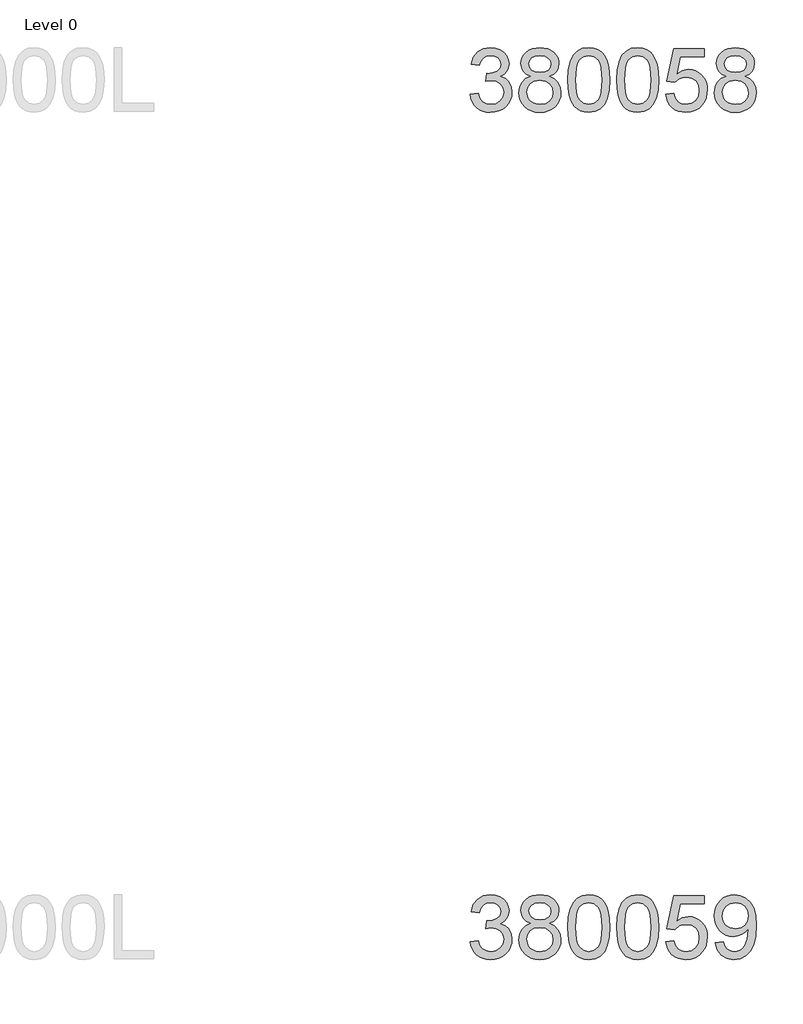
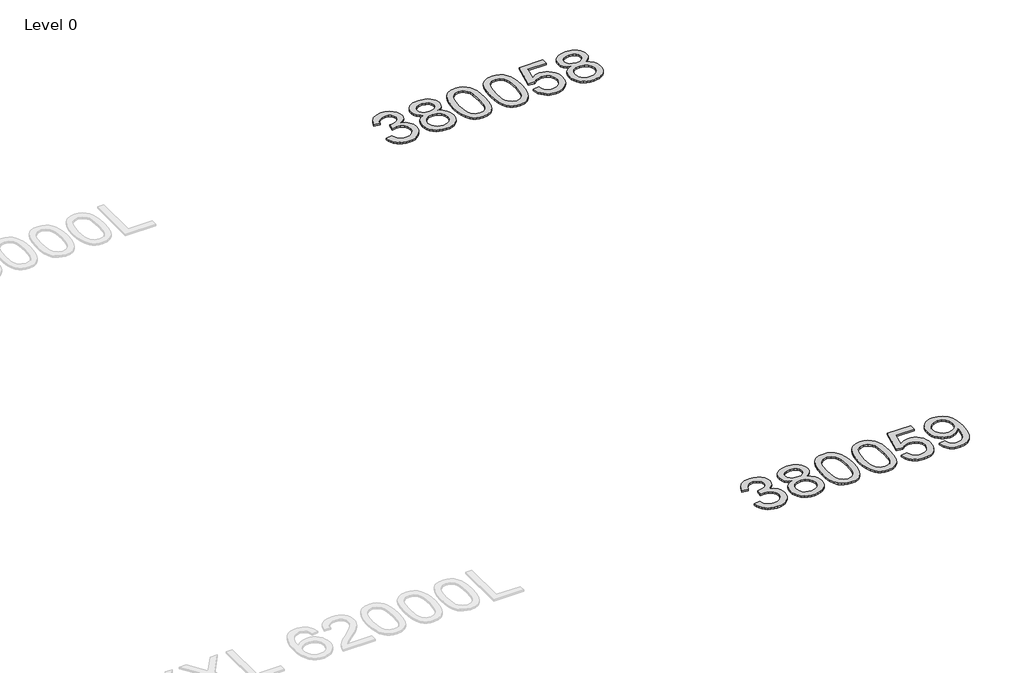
# One storey, part 5 of 37: 2 proxies.
"""IFC4 building model written with IfcOpenShell, lengths in millimetres."""

from ifc_helpers import new_model, si_unit, origin, origin_with_axes, place, context, project, spatial, polyline, outline, extrude, element, save

model = new_model("IFC4")

# Units and contexts
model_context = context("Model", 3, world=origin())
ifc_project = project(units=[si_unit("LENGTHUNIT", "METRE", prefix="MILLI")], contexts=[model_context])

# Site, building, storey
site = spatial("IfcSite", under=ifc_project)
building = spatial("IfcBuilding", under=site)
storey = spatial("IfcBuildingStorey", under=building, Name="Level 0", Elevation=0.0)

# Proxies
placement = place(None, origin())
element("IfcBuildingElementProxy", 1, Name="300mm Arial", ObjectType="300mm Arial", at=placement, inside=storey, context=model_context, shape_type="SweptSolid", body=[
    extrude(outline(polyline([(-6311.2846424, -33620.925676), (-6273.6135261, -33616.2167865), (-6265.1798313, -33639.8899929), (-6252.8281934, -33655.8744656), (-6235.9516068, -33664.979545), (-6213.9430665, -33668.0145714), (-6188.1177504, -33663.8391108), (-6168.1785463, -33651.3127288), (-6155.4314351, -33632.6243235), (-6151.1823981, -33609.9627926), (-6155.3946469, -33588.4508929), (-6168.0313935, -33571.0040893), (-6187.1612572, -33559.4433976), (-6210.8528577, -33555.5898337), (-6237.266785, -33559.710112), (-6233.0729302, -33522.0389957), (-6227.0396655, -33522.4804541), (-6204.4701051, -33519.7765215), (-6184.2917777, -33511.6647235), (-6170.0547444, -33497.942725), (-6165.3090667, -33478.4081911), (-6168.7487634, -33462.1386099), (-6179.0678533, -33448.9408433), (-6194.8132027, -33440.1944488), (-6214.5316777, -33437.278984), (-6234.2869408, -33440.22204), (-6250.4369604, -33449.0512079), (-6262.2275783, -33463.7664877), (-6268.9046365, -33484.3678794), (-6306.5757528, -33479.6589899), (-6295.4841107, -33445.8322404), (-6275.7472417, -33420.5771415), (-6248.7447032, -33404.8501862), (-6215.8560528, -33399.6078677), (-6192.1736494, -33402.1922387), (-6170.4226264, -33409.9453518), (-6152.083709, -33422.1774281), (-6138.637622, -33438.198689), (-6130.3878683, -33456.6571681), (-6127.6379504, -33476.2008991), (-6130.2499126, -33494.4110579), (-6138.0857991, -33510.9289595), (-6151.0352453, -33525.0004458), (-6168.9878867, -33535.8713587), (-6145.4066508, -33545.3995024), (-6127.932256, -33561.6230984), (-6117.1165253, -33583.6592299), (-6113.5112818, -33610.6249802), (-6115.3139036, -33629.7364498), (-6120.7217689, -33647.3396033), (-6129.7348778, -33663.4344406), (-6142.3532302, -33678.0209617), (-6157.7260991, -33690.1242793), (-6175.0027573, -33698.7695062), (-6194.1832048, -33703.9566423), (-6215.2674416, -33705.6856877), (-6234.323729, -33704.2095612), (-6251.6877592, -33699.7811817), (-6267.3595322, -33692.4005492), (-6281.339048, -33682.0676636), (-6293.0606881, -33669.3895304), (-6301.9588338, -33654.9731547), (-6308.0334853, -33638.8185366), (-6311.2846424, -33620.925676)])), origin_with_axes(), (0.0, 0.0, 1.0), 10.0),
    extrude(outline(polyline([(-6025.6610613, -33534.988442), (-6045.8301917, -33525.0556281), (-6059.9844515, -33511.5911471), (-6068.3445698, -33494.8709104), (-6071.1312759, -33475.1708295), (-6069.6137627, -33459.8071577), (-6065.061223, -33445.7218758), (-6057.4736569, -33432.9149839), (-6046.8510643, -33421.3864818), (-6033.7038815, -33411.8583382), (-6018.5425447, -33405.0525213), (-5982.1774095, -33399.6078677), (-5945.5915451, -33405.18128), (-5930.2646615, -33412.1480452), (-5916.9151436, -33421.9015166), (-5906.0994129, -33433.6553464), (-5898.373891, -33446.6231867), (-5893.7385779, -33460.8050376), (-5892.1934735, -33476.2008991), (-5894.9433914, -33495.2663835), (-5903.1931451, -33511.7015117), (-5917.0347052, -33525.0832192), (-5936.5600421, -33534.988442), (-5913.3742794, -33546.9354097), (-5896.4976928, -33564.5293662), (-5886.206194, -33586.9241826), (-5882.7756944, -33613.2737305), (-5884.4771486, -33632.0633034), (-5889.5815113, -33649.2893779), (-5898.0887825, -33664.9519538), (-5909.998962, -33679.0510313), (-5924.6866507, -33690.7036935), (-5941.526449, -33699.0270236), (-5960.518357, -33704.0210217), (-5981.6623747, -33705.6856877), (-6002.8063924, -33704.0141239), (-6021.7983004, -33698.9994325), (-6038.6380987, -33690.6416134), (-6053.3257874, -33678.9406667), (-6065.235967, -33664.7427209), (-6073.7432381, -33648.8939047), (-6078.8476008, -33631.3942181), (-6080.549055, -33612.2436609), (-6076.9805997, -33584.8732405), (-6066.2752336, -33562.3588624), (-6048.9847798, -33545.4730788), (-6025.6610613, -33534.988442)]), holes=[polyline([(-6033.4601596, -33476.2744755), (-6030.1216305, -33492.7188007), (-6020.1060432, -33505.8521879), (-6003.7077033, -33514.4606266), (-5981.2209163, -33517.3301062), (-5959.2583612, -33514.4790207), (-5943.1083416, -33505.9257643), (-5933.1755277, -33493.2338355), (-5929.8645898, -33477.9667327), (-5933.2858923, -33462.1202158), (-5943.5498, -33449.0144197), (-5959.9205488, -33440.2128429), (-5981.6623747, -33437.278984), (-6003.5421564, -33440.1484636), (-6019.885314, -33448.7569023), (-6030.0664482, -33461.3752547), (-6033.4601596, -33476.2744755)]), polyline([(-6042.8779387, -33610.9192858), (-6036.5871566, -33639.2829876), (-6027.8775504, -33651.4506846), (-6014.3302959, -33660.5097787), (-5998.1066999, -33666.1383732), (-5981.3680691, -33668.0145714), (-5955.726694, -33664.069037), (-5936.4864657, -33652.2324338), (-5924.4567245, -33634.3073836), (-5920.4468107, -33612.0965081), (-5924.5854832, -33589.5085536), (-5937.0015005, -33571.1880303), (-5956.6831872, -33559.0479244), (-5982.6188679, -33555.0012225), (-6007.901558, -33558.9927421), (-6026.9486483, -33570.9673011), (-6038.8956161, -33588.9383365), (-6042.8779387, -33610.9192858)])]), origin_with_axes(), (0.0, 0.0, 1.0), 10.0),
    extrude(outline(polyline([(-5849.8134676, -33552.7203541), (-5847.0451556, -33504.4818275), (-5838.7402196, -33466.0105679), (-5824.981433, -33436.717964), (-5805.8515692, -33416.0154047), (-5781.2126726, -33403.709752), (-5750.9267873, -33399.6078677), (-5727.7134334, -33402.0358889), (-5706.9281007, -33409.3199524), (-5689.5456764, -33421.1749497), (-5676.5410479, -33437.3157722), (-5666.7185986, -33457.6044643), (-5658.8827121, -33481.9030701), (-5653.7507583, -33512.7591724), (-5652.040107, -33552.7203541), (-5654.7808279, -33600.6829692), (-5663.0029905, -33639.0622584), (-5676.6790037, -33668.3824534), (-5695.7812763, -33689.1677861), (-5720.4753552, -33701.5562123), (-5750.9267873, -33705.6856877), (-5771.6753319, -33703.892263), (-5790.0694316, -33698.5119888), (-5806.1090866, -33689.5448652), (-5819.7942968, -33676.9908921), (-5832.9276841, -33654.2971715), (-5842.3086749, -33626.0208417), (-5847.9372695, -33592.1619025), (-5849.8134676, -33552.7203541)]), holes=[polyline([(-5812.1423513, -33552.6467777), (-5807.7277674, -33611.9033701), (-5802.2095375, -33632.1713688), (-5794.4840156, -33646.1991691), (-5774.7655406, -33662.5607208), (-5750.9267873, -33668.0145714), (-5727.088034, -33662.5423267), (-5707.3695591, -33646.1255927), (-5699.6440372, -33632.0747997), (-5694.1258073, -33611.8113996), (-5689.7112233, -33552.6467777), (-5693.9786545, -33494.7237576), (-5699.3129434, -33474.5224375), (-5706.7809479, -33460.1612441), (-5726.4626347, -33442.9995491), (-5751.3682457, -33437.278984), (-5774.9494816, -33442.3189674), (-5793.8954044, -33457.4389174), (-5801.8784437, -33473.0739022), (-5807.5806146, -33494.1535405), (-5812.1423513, -33552.6467777)])]), origin_with_axes(), (0.0, 0.0, 1.0), 10.0),
    extrude(outline(polyline([(-5619.0778803, -33552.7203541), (-5616.3095682, -33504.4818275), (-5608.0046322, -33466.0105679), (-5594.2458456, -33436.717964), (-5575.1159818, -33416.0154047), (-5550.4770852, -33403.709752), (-5520.1912, -33399.6078677), (-5496.9778461, -33402.0358889), (-5476.1925133, -33409.3199524), (-5458.8100891, -33421.1749497), (-5445.8054605, -33437.3157722), (-5435.9830113, -33457.6044643), (-5428.1471248, -33481.9030701), (-5423.0151709, -33512.7591724), (-5421.3045197, -33552.7203541), (-5424.0452405, -33600.6829692), (-5432.2674031, -33639.0622584), (-5445.9434163, -33668.3824534), (-5465.0456889, -33689.1677861), (-5489.7397678, -33701.5562123), (-5520.1912, -33705.6856877), (-5540.9397445, -33703.892263), (-5559.3338442, -33698.5119888), (-5575.3734992, -33689.5448652), (-5589.0587095, -33676.9908921), (-5602.1920967, -33654.2971715), (-5611.5730876, -33626.0208417), (-5617.2016821, -33592.1619025), (-5619.0778803, -33552.7203541)]), holes=[polyline([(-5581.406764, -33552.6467777), (-5576.99218, -33611.9033701), (-5571.4739501, -33632.1713688), (-5563.7484282, -33646.1991691), (-5544.0299532, -33662.5607208), (-5520.1912, -33668.0145714), (-5496.3524467, -33662.5423267), (-5476.6339717, -33646.1255927), (-5468.9084498, -33632.0747997), (-5463.3902199, -33611.8113996), (-5458.975636, -33552.6467777), (-5463.2430671, -33494.7237576), (-5468.577356, -33474.5224375), (-5476.0453605, -33460.1612441), (-5495.7270473, -33442.9995491), (-5520.6326584, -33437.278984), (-5544.2138942, -33442.3189674), (-5563.159817, -33457.4389174), (-5571.1428563, -33473.0739022), (-5576.8450272, -33494.1535405), (-5581.406764, -33552.6467777)])]), origin_with_axes(), (0.0, 0.0, 1.0), 10.0),
    extrude(outline(polyline([(-5388.3422929, -33620.925676), (-5350.6711766, -33616.2167865), (-5343.7549951, -33638.8323321), (-5331.6884656, -33655.028337), (-5314.5267706, -33664.7680128), (-5292.3250921, -33668.0145714), (-5265.3225537, -33663.4988199), (-5245.089044, -33649.9515654), (-5232.4522974, -33628.9363065), (-5228.2400486, -33602.0165415), (-5232.185583, -33576.669472), (-5244.0221862, -33557.2820909), (-5263.8418287, -33544.9764381), (-5291.736481, -33540.8745539), (-5310.0110191, -33542.5116288), (-5324.8090723, -33547.4228534), (-5345.962287, -33564.4190016), (-5383.6334033, -33559.710112), (-5350.6711766, -33404.3167573), (-5204.6956009, -33404.3167573), (-5204.6956009, -33441.9878736), (-5320.2105474, -33441.9878736), (-5336.3237788, -33524.9820517), (-5309.4132108, -33508.6480911), (-5281.2150559, -33503.2034376), (-5262.8692406, -33504.8910962), (-5246.017946, -33509.9540722), (-5230.661172, -33518.3923654), (-5216.7989185, -33530.205976), (-5205.3232995, -33544.6729355), (-5197.1264288, -33561.0712754), (-5192.2083064, -33579.4009958), (-5190.5689323, -33599.6620967), (-5196.4734383, -33637.333213), (-5203.8540708, -33654.1270261), (-5214.1869564, -33669.5596758), (-5229.8403353, -33685.364806), (-5248.1056763, -33696.6541847), (-5268.9829796, -33703.427812), (-5292.4722449, -33705.6856877), (-5329.4719766, -33699.8823492), (-5345.1506474, -33692.6281762), (-5358.9485215, -33682.4723338), (-5370.428739, -33669.92066), (-5379.1544401, -33655.4789924), (-5388.3422929, -33620.925676)])), origin_with_axes(), (0.0, 0.0, 1.0), 10.0),
    extrude(outline(polyline([(-5102.7187118, -33534.988442), (-5122.8878422, -33525.0556281), (-5137.042102, -33511.5911471), (-5145.4022203, -33494.8709104), (-5148.1889264, -33475.1708295), (-5146.6714132, -33459.8071577), (-5142.1188735, -33445.7218758), (-5134.5313074, -33432.9149839), (-5123.9087148, -33421.3864818), (-5110.761532, -33411.8583382), (-5095.6001952, -33405.0525213), (-5059.23506, -33399.6078677), (-5022.6491956, -33405.18128), (-5007.322312, -33412.1480452), (-4993.9727941, -33421.9015166), (-4983.1570634, -33433.6553464), (-4975.4315415, -33446.6231867), (-4970.7962284, -33460.8050376), (-4969.251124, -33476.2008991), (-4972.0010419, -33495.2663835), (-4980.2507956, -33511.7015117), (-4994.0923557, -33525.0832192), (-5013.6176926, -33534.988442), (-4990.4319299, -33546.9354097), (-4973.5553433, -33564.5293662), (-4963.2638445, -33586.9241826), (-4959.8333449, -33613.2737305), (-4961.5347991, -33632.0633034), (-4966.6391618, -33649.2893779), (-4975.146433, -33664.9519538), (-4987.0566125, -33679.0510313), (-5001.7443012, -33690.7036935), (-5018.5840995, -33699.0270236), (-5037.5760075, -33704.0210217), (-5058.7200252, -33705.6856877), (-5079.8640429, -33704.0141239), (-5098.8559509, -33698.9994325), (-5115.6957492, -33690.6416134), (-5130.3834379, -33678.9406667), (-5142.2936175, -33664.7427209), (-5150.8008886, -33648.8939047), (-5155.9052513, -33631.3942181), (-5157.6067055, -33612.2436609), (-5154.0382502, -33584.8732405), (-5143.3328841, -33562.3588624), (-5126.0424303, -33545.4730788), (-5102.7187118, -33534.988442)]), holes=[polyline([(-5119.9355892, -33610.9192858), (-5113.6448071, -33639.2829876), (-5104.9352009, -33651.4506846), (-5091.3879464, -33660.5097787), (-5075.1643504, -33666.1383732), (-5058.4257196, -33668.0145714), (-5032.7843445, -33664.069037), (-5013.5441162, -33652.2324338), (-5001.514375, -33634.3073836), (-4997.5044612, -33612.0965081), (-5001.6431337, -33589.5085536), (-5014.059151, -33571.1880303), (-5033.7408377, -33559.0479244), (-5059.6765184, -33555.0012225), (-5084.9592085, -33558.9927421), (-5104.0062988, -33570.9673011), (-5115.9532666, -33588.9383365), (-5119.9355892, -33610.9192858)]), polyline([(-5110.5178101, -33476.2744755), (-5107.179281, -33492.7188007), (-5097.1636937, -33505.8521879), (-5080.7653538, -33514.4606266), (-5058.2785668, -33517.3301062), (-5036.3160117, -33514.4790207), (-5020.1659921, -33505.9257643), (-5010.2331782, -33493.2338355), (-5006.9222403, -33477.9667327), (-5010.3435428, -33462.1202158), (-5020.6074505, -33449.0144197), (-5036.9781993, -33440.2128429), (-5058.7200252, -33437.278984), (-5080.5998069, -33440.1484636), (-5096.9429645, -33448.7569023), (-5107.1240987, -33461.3752547), (-5110.5178101, -33476.2744755)])]), origin_with_axes(), (0.0, 0.0, 1.0), 10.0),
])
element("IfcBuildingElementProxy", 2, Name="300mm Arial", ObjectType="300mm Arial", at=placement, inside=storey, context=model_context, shape_type="SweptSolid", body=[
    extrude(outline(polyline([(-6311.2846424, -37620.925676), (-6273.6135261, -37616.2167865), (-6265.1798313, -37639.8899929), (-6252.8281934, -37655.8744656), (-6235.9516068, -37664.979545), (-6213.9430665, -37668.0145714), (-6188.1177504, -37663.8391108), (-6168.1785463, -37651.3127288), (-6155.4314351, -37632.6243235), (-6151.1823981, -37609.9627926), (-6155.3946469, -37588.4508929), (-6168.0313935, -37571.0040893), (-6187.1612572, -37559.4433976), (-6210.8528577, -37555.5898337), (-6237.266785, -37559.710112), (-6233.0729302, -37522.0389957), (-6227.0396655, -37522.4804541), (-6204.4701051, -37519.7765215), (-6184.2917777, -37511.6647235), (-6170.0547444, -37497.942725), (-6165.3090667, -37478.4081911), (-6168.7487634, -37462.1386099), (-6179.0678533, -37448.9408433), (-6194.8132027, -37440.1944488), (-6214.5316777, -37437.278984), (-6234.2869408, -37440.22204), (-6250.4369604, -37449.0512079), (-6262.2275783, -37463.7664877), (-6268.9046365, -37484.3678794), (-6306.5757528, -37479.6589899), (-6295.4841107, -37445.8322404), (-6275.7472417, -37420.5771415), (-6248.7447032, -37404.8501862), (-6215.8560528, -37399.6078677), (-6192.1736494, -37402.1922387), (-6170.4226264, -37409.9453518), (-6152.083709, -37422.1774281), (-6138.637622, -37438.198689), (-6130.3878683, -37456.6571681), (-6127.6379504, -37476.2008991), (-6130.2499126, -37494.4110579), (-6138.0857991, -37510.9289595), (-6151.0352453, -37525.0004458), (-6168.9878867, -37535.8713587), (-6145.4066508, -37545.3995024), (-6127.932256, -37561.6230984), (-6117.1165253, -37583.6592299), (-6113.5112818, -37610.6249802), (-6115.3139036, -37629.7364498), (-6120.7217689, -37647.3396033), (-6129.7348778, -37663.4344406), (-6142.3532302, -37678.0209617), (-6157.7260991, -37690.1242793), (-6175.0027573, -37698.7695062), (-6194.1832048, -37703.9566423), (-6215.2674416, -37705.6856877), (-6234.323729, -37704.2095612), (-6251.6877592, -37699.7811817), (-6267.3595322, -37692.4005492), (-6281.339048, -37682.0676636), (-6293.0606881, -37669.3895304), (-6301.9588338, -37654.9731547), (-6308.0334853, -37638.8185366), (-6311.2846424, -37620.925676)])), origin_with_axes(), (0.0, 0.0, 1.0), 10.0),
    extrude(outline(polyline([(-6025.6610613, -37534.988442), (-6045.8301917, -37525.0556281), (-6059.9844515, -37511.5911471), (-6068.3445698, -37494.8709104), (-6071.1312759, -37475.1708295), (-6069.6137627, -37459.8071577), (-6065.061223, -37445.7218758), (-6057.4736569, -37432.9149839), (-6046.8510643, -37421.3864818), (-6033.7038815, -37411.8583382), (-6018.5425447, -37405.0525213), (-5982.1774095, -37399.6078677), (-5945.5915451, -37405.18128), (-5930.2646615, -37412.1480452), (-5916.9151436, -37421.9015166), (-5906.0994129, -37433.6553464), (-5898.373891, -37446.6231867), (-5893.7385779, -37460.8050376), (-5892.1934735, -37476.2008991), (-5894.9433914, -37495.2663835), (-5903.1931451, -37511.7015117), (-5917.0347052, -37525.0832192), (-5936.5600421, -37534.988442), (-5913.3742794, -37546.9354097), (-5896.4976928, -37564.5293662), (-5886.206194, -37586.9241826), (-5882.7756944, -37613.2737305), (-5884.4771486, -37632.0633034), (-5889.5815113, -37649.2893779), (-5898.0887825, -37664.9519538), (-5909.998962, -37679.0510313), (-5924.6866507, -37690.7036935), (-5941.526449, -37699.0270236), (-5960.518357, -37704.0210217), (-5981.6623747, -37705.6856877), (-6002.8063924, -37704.0141239), (-6021.7983004, -37698.9994325), (-6038.6380987, -37690.6416134), (-6053.3257874, -37678.9406667), (-6065.235967, -37664.7427209), (-6073.7432381, -37648.8939047), (-6078.8476008, -37631.3942181), (-6080.549055, -37612.2436609), (-6076.9805997, -37584.8732405), (-6066.2752336, -37562.3588624), (-6048.9847798, -37545.4730788), (-6025.6610613, -37534.988442)]), holes=[polyline([(-6033.4601596, -37476.2744755), (-6030.1216305, -37492.7188007), (-6020.1060432, -37505.8521879), (-6003.7077033, -37514.4606266), (-5981.2209163, -37517.3301062), (-5959.2583612, -37514.4790207), (-5943.1083416, -37505.9257643), (-5933.1755277, -37493.2338355), (-5929.8645898, -37477.9667327), (-5933.2858923, -37462.1202158), (-5943.5498, -37449.0144197), (-5959.9205488, -37440.2128429), (-5981.6623747, -37437.278984), (-6003.5421564, -37440.1484636), (-6019.885314, -37448.7569023), (-6030.0664482, -37461.3752547), (-6033.4601596, -37476.2744755)]), polyline([(-6042.8779387, -37610.9192858), (-6036.5871566, -37639.2829876), (-6027.8775504, -37651.4506846), (-6014.3302959, -37660.5097787), (-5998.1066999, -37666.1383732), (-5981.3680691, -37668.0145714), (-5955.726694, -37664.069037), (-5936.4864657, -37652.2324338), (-5924.4567245, -37634.3073836), (-5920.4468107, -37612.0965081), (-5924.5854832, -37589.5085536), (-5937.0015005, -37571.1880303), (-5956.6831872, -37559.0479244), (-5982.6188679, -37555.0012225), (-6007.901558, -37558.9927421), (-6026.9486483, -37570.9673011), (-6038.8956161, -37588.9383365), (-6042.8779387, -37610.9192858)])]), origin_with_axes(), (0.0, 0.0, 1.0), 10.0),
    extrude(outline(polyline([(-5849.8134676, -37552.7203541), (-5847.0451556, -37504.4818275), (-5838.7402196, -37466.0105679), (-5824.981433, -37436.717964), (-5805.8515692, -37416.0154047), (-5781.2126726, -37403.709752), (-5750.9267873, -37399.6078677), (-5727.7134334, -37402.0358889), (-5706.9281007, -37409.3199524), (-5689.5456764, -37421.1749497), (-5676.5410479, -37437.3157722), (-5666.7185986, -37457.6044643), (-5658.8827121, -37481.9030701), (-5653.7507583, -37512.7591724), (-5652.040107, -37552.7203541), (-5654.7808279, -37600.6829692), (-5663.0029905, -37639.0622584), (-5676.6790037, -37668.3824534), (-5695.7812763, -37689.1677861), (-5720.4753552, -37701.5562123), (-5750.9267873, -37705.6856877), (-5771.6753319, -37703.892263), (-5790.0694316, -37698.5119888), (-5806.1090866, -37689.5448652), (-5819.7942968, -37676.9908921), (-5832.9276841, -37654.2971715), (-5842.3086749, -37626.0208417), (-5847.9372695, -37592.1619025), (-5849.8134676, -37552.7203541)]), holes=[polyline([(-5812.1423513, -37552.6467777), (-5807.7277674, -37611.9033701), (-5802.2095375, -37632.1713688), (-5794.4840156, -37646.1991691), (-5774.7655406, -37662.5607208), (-5750.9267873, -37668.0145714), (-5727.088034, -37662.5423267), (-5707.3695591, -37646.1255927), (-5699.6440372, -37632.0747997), (-5694.1258073, -37611.8113996), (-5689.7112233, -37552.6467777), (-5693.9786545, -37494.7237576), (-5699.3129434, -37474.5224375), (-5706.7809479, -37460.1612441), (-5726.4626347, -37442.9995491), (-5751.3682457, -37437.278984), (-5774.9494816, -37442.3189674), (-5793.8954044, -37457.4389174), (-5801.8784437, -37473.0739022), (-5807.5806146, -37494.1535405), (-5812.1423513, -37552.6467777)])]), origin_with_axes(), (0.0, 0.0, 1.0), 10.0),
    extrude(outline(polyline([(-5619.0778803, -37552.7203541), (-5616.3095682, -37504.4818275), (-5608.0046322, -37466.0105679), (-5594.2458456, -37436.717964), (-5575.1159818, -37416.0154047), (-5550.4770852, -37403.709752), (-5520.1912, -37399.6078677), (-5496.9778461, -37402.0358889), (-5476.1925133, -37409.3199524), (-5458.8100891, -37421.1749497), (-5445.8054605, -37437.3157722), (-5435.9830113, -37457.6044643), (-5428.1471248, -37481.9030701), (-5423.0151709, -37512.7591724), (-5421.3045197, -37552.7203541), (-5424.0452405, -37600.6829692), (-5432.2674031, -37639.0622584), (-5445.9434163, -37668.3824534), (-5465.0456889, -37689.1677861), (-5489.7397678, -37701.5562123), (-5520.1912, -37705.6856877), (-5540.9397445, -37703.892263), (-5559.3338442, -37698.5119888), (-5575.3734992, -37689.5448652), (-5589.0587095, -37676.9908921), (-5602.1920967, -37654.2971715), (-5611.5730876, -37626.0208417), (-5617.2016821, -37592.1619025), (-5619.0778803, -37552.7203541)]), holes=[polyline([(-5581.406764, -37552.6467777), (-5576.99218, -37611.9033701), (-5571.4739501, -37632.1713688), (-5563.7484282, -37646.1991691), (-5544.0299532, -37662.5607208), (-5520.1912, -37668.0145714), (-5496.3524467, -37662.5423267), (-5476.6339717, -37646.1255927), (-5468.9084498, -37632.0747997), (-5463.3902199, -37611.8113996), (-5458.975636, -37552.6467777), (-5463.2430671, -37494.7237576), (-5468.577356, -37474.5224375), (-5476.0453605, -37460.1612441), (-5495.7270473, -37442.9995491), (-5520.6326584, -37437.278984), (-5544.2138942, -37442.3189674), (-5563.159817, -37457.4389174), (-5571.1428563, -37473.0739022), (-5576.8450272, -37494.1535405), (-5581.406764, -37552.6467777)])]), origin_with_axes(), (0.0, 0.0, 1.0), 10.0),
    extrude(outline(polyline([(-5388.3422929, -37620.925676), (-5350.6711766, -37616.2167865), (-5343.7549951, -37638.8323321), (-5331.6884656, -37655.028337), (-5314.5267706, -37664.7680128), (-5292.3250921, -37668.0145714), (-5265.3225537, -37663.4988199), (-5245.089044, -37649.9515654), (-5232.4522974, -37628.9363065), (-5228.2400486, -37602.0165415), (-5232.185583, -37576.669472), (-5244.0221862, -37557.2820909), (-5263.8418287, -37544.9764381), (-5291.736481, -37540.8745539), (-5310.0110191, -37542.5116288), (-5324.8090723, -37547.4228534), (-5345.962287, -37564.4190016), (-5383.6334033, -37559.710112), (-5350.6711766, -37404.3167573), (-5204.6956009, -37404.3167573), (-5204.6956009, -37441.9878736), (-5320.2105474, -37441.9878736), (-5336.3237788, -37524.9820517), (-5309.4132108, -37508.6480911), (-5281.2150559, -37503.2034376), (-5262.8692406, -37504.8910962), (-5246.017946, -37509.9540722), (-5230.661172, -37518.3923654), (-5216.7989185, -37530.205976), (-5205.3232995, -37544.6729355), (-5197.1264288, -37561.0712754), (-5192.2083064, -37579.4009958), (-5190.5689323, -37599.6620967), (-5196.4734383, -37637.333213), (-5203.8540708, -37654.1270261), (-5214.1869564, -37669.5596758), (-5229.8403353, -37685.364806), (-5248.1056763, -37696.6541847), (-5268.9829796, -37703.427812), (-5292.4722449, -37705.6856877), (-5329.4719766, -37699.8823492), (-5345.1506474, -37692.6281762), (-5358.9485215, -37682.4723338), (-5370.428739, -37669.92066), (-5379.1544401, -37655.4789924), (-5388.3422929, -37620.925676)])), origin_with_axes(), (0.0, 0.0, 1.0), 10.0),
    extrude(outline(polyline([(-5152.897816, -37625.6345656), (-5115.2266997, -37620.925676), (-5108.7887648, -37642.308817), (-5098.3041279, -37656.867747), (-5084.0303065, -37665.2278653), (-5066.2248179, -37668.0145714), (-5050.2495423, -37666.2211467), (-5035.7274005, -37660.8408725), (-5023.6608711, -37652.4623601), (-5015.0524324, -37641.6742206), (-5002.7283855, -37608.932723), (-4997.283732, -37565.228342), (-4997.5044612, -37557.8707021), (-5010.555075, -37573.7999924), (-5027.6339966, -37586.4183449), (-5047.5088214, -37594.6405075), (-5068.9471447, -37597.3812283), (-5086.8423045, -37595.7073653), (-5103.298126, -37590.685776), (-5118.3146092, -37582.3164606), (-5131.891754, -37570.5994191), (-5143.1420453, -37556.1462552), (-5151.1779676, -37539.5685728), (-5155.999521, -37520.8663719), (-5157.6067055, -37500.0396524), (-5155.9213461, -37478.5185557), (-5150.865268, -37459.2047509), (-5142.438471, -37442.0982382), (-5130.6409553, -37427.1990174), (-5116.3050538, -37415.1278894), (-5100.2630995, -37406.5056551), (-5082.5150925, -37401.3323146), (-5063.0610328, -37399.6078677), (-5034.9640454, -37403.5442051), (-5009.3870497, -37415.3532171), (-4987.9947116, -37434.4462927), (-4972.4516973, -37460.2348205), (-4962.987933, -37495.8825859), (-4959.8333449, -37544.5533738), (-4962.978736, -37596.1580207), (-4972.4149091, -37636.045626), (-4988.059091, -37666.0188116), (-5009.828508, -37687.8801991), (-5036.7850612, -37701.2343156), (-5067.9906515, -37705.6856877), (-5100.1987202, -37700.4341722), (-5125.8952775, -37684.6796258), (-5143.866313, -37659.4153298), (-5152.897816, -37625.6345656)]), holes=[polyline([(-4997.5044612, -37499.1567356), (-5001.5695573, -37473.6257252), (-5013.7648454, -37453.9808266), (-5032.692374, -37441.4544447), (-5056.9541916, -37437.278984), (-5082.1173201, -37441.7763414), (-5102.2772534, -37455.2684136), (-5115.5210053, -37475.9157906), (-5119.9355892, -37501.8790624), (-5115.7601286, -37525.1567956), (-5103.2337466, -37543.6336688), (-5083.570454, -37555.6910012), (-5057.9842612, -37559.710112), (-5033.9155817, -37555.6910012), (-5014.5373976, -37543.6336688), (-5001.7626953, -37524.4762139), (-4997.5044612, -37499.1567356)])]), origin_with_axes(), (0.0, 0.0, 1.0), 10.0),
])

save(model, "model.ifc")
